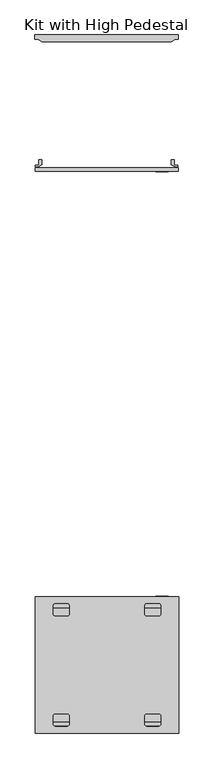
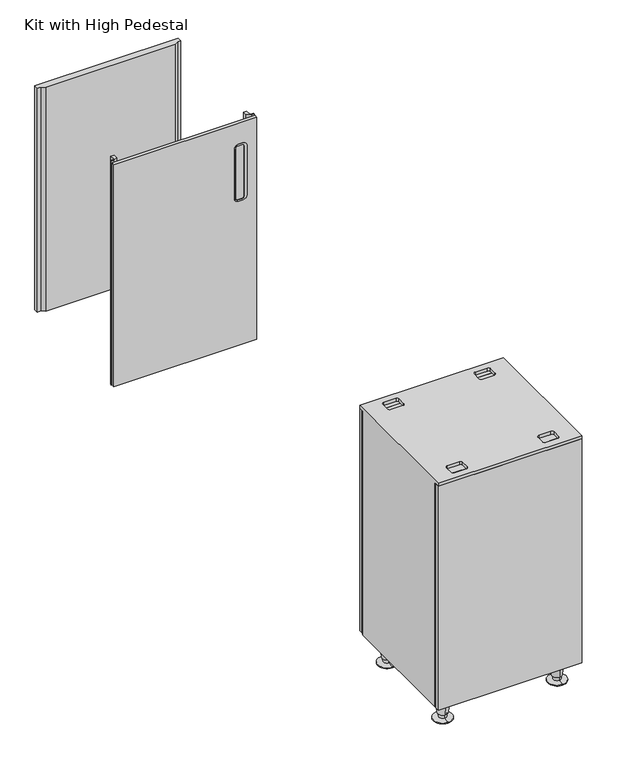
"""IFC4 building model written with IfcOpenShell, lengths in millimetres: furniture geometry, Steelcase - C Scape - Mid Storage Support - Mirrored Application : Kit with High Pedestal."""

from ifc_helpers import new_model, si_unit, point, frame, frame_2d, origin, place, context, project, spatial, polyline, circle_curve, trimmed, segment, composite_curve, outline, extrude, faceted_brep, source, transform, mapped, element, save
from ifc_brep_helpers import plane_surface, cylinder_surface, revolved_surface, advanced_brep


def kit_with_high_pedestal_83c3bd6a(model_context):
    return source(origin(), model_context, "Body", "SolidModel", [
        extrude(outline(polyline([(533.4, -1109.7844509), (77.47, -1109.7844509), (77.47, -1095.9415284), (87.6469322, -1095.9415284), (99.6948062, -1088.7024354), (511.174569, -1088.7024354), (523.2224429, -1095.9415284), (533.4, -1095.9415284), (533.4, -1109.7844509)])), frame((0.0, 0.0, 76.2), z_axis=(0.0, 0.0, 1.0), x_axis=(1.0, 0.0, 0.0)), (0.0, 0.0, 1.0), 751.84),
        extrude(outline(composite_curve([segment(polyline([(742.3150339, 460.8832248), (577.2149855, 460.8832248)]), True, "CONTINUOUS"), segment(trimmed(circle_curve(frame_2d((577.2149855, 473.5832248)), 12.7), [point((577.2149855, 460.8832248))], [point((564.5149855, 473.5832248))], False, "CARTESIAN"), True, "CONTINUOUS"), segment(polyline([(564.5149855, 473.5832248), (564.5149855, 488.1877597)]), True, "CONTINUOUS"), segment(trimmed(circle_curve(frame_2d((577.2149855, 488.1877597)), 12.7), [point((564.5149855, 488.1877597))], [point((577.2149855, 500.8877597))], False, "CARTESIAN"), True, "CONTINUOUS"), segment(polyline([(577.2149855, 500.8877597), (742.3150339, 500.8877597)]), True, "CONTINUOUS"), segment(trimmed(circle_curve(frame_2d((742.3150339, 488.1877597)), 12.7), [point((742.3150339, 500.8877597))], [point((755.0150339, 488.1877597))], False, "CARTESIAN"), True, "CONTINUOUS"), segment(polyline([(755.0150339, 488.1877597), (755.0150339, 473.5832248)]), True, "CONTINUOUS"), segment(trimmed(circle_curve(frame_2d((742.3150339, 473.5832248)), 12.7), [point((755.0150339, 473.5832248))], [point((742.3150339, 460.8832248))], False, "CARTESIAN"), True, "CONTINUOUS")], self_intersect=False), holes=[composite_curve([segment(polyline([(743.8390203, 491.1092868), (575.690999, 491.1092868)]), True, "CONTINUOUS"), segment(trimmed(circle_curve(frame_2d((575.690999, 484.7592868)), 6.35), [point((575.690999, 491.1092868))], [point((569.340999, 484.7592868))], True, "CARTESIAN"), True, "CONTINUOUS"), segment(polyline([(569.340999, 484.7592868), (569.340999, 472.059093)]), True, "CONTINUOUS"), segment(trimmed(circle_curve(frame_2d((575.690999, 472.059093)), 6.35), [point((569.340999, 472.059093))], [point((575.690999, 465.709093))], True, "CARTESIAN"), True, "CONTINUOUS"), segment(polyline([(575.690999, 465.709093), (743.8390203, 465.709093)]), True, "CONTINUOUS"), segment(trimmed(circle_curve(frame_2d((743.8390203, 472.059093)), 6.35), [point((743.8390203, 465.709093))], [point((750.1890203, 472.059093))], True, "CARTESIAN"), True, "CONTINUOUS"), segment(polyline([(750.1890203, 472.059093), (750.1890203, 484.7592868)]), True, "CONTINUOUS"), segment(trimmed(circle_curve(frame_2d((743.8390203, 484.7592868)), 6.35), [point((750.1890203, 484.7592868))], [point((743.8390203, 491.1092868))], True, "CARTESIAN"), True, "CONTINUOUS")], self_intersect=False)]), frame((0.0, -676.7144509, 0.0), z_axis=(0.0, 1.0, 0.0), x_axis=(0.0, 0.0, 1.0)), (0.0, 0.0, 1.0), 1.270126),
        extrude(outline(polyline([(78.5030765, -676.7144509), (532.6381473, -676.7144509), (532.6381473, -687.2555226), (78.5030765, -687.2555226), (78.5030765, -676.7144509)])), frame((0.0, 0.0, 79.374997), z_axis=(0.0, 0.0, 1.0), x_axis=(1.0, 0.0, 0.0)), (0.0, 0.0, 1.0), 745.4899885),
        extrude(outline(polyline([(89.6872775, -694.7484509), (78.5030765, -694.7484509), (78.5030765, -690.3033734), (87.6469322, -690.3033734), (99.6948062, -697.5424664), (99.6948062, -712.5284276), (89.6872775, -712.5284276), (89.6872775, -694.7484509)])), frame((0.0, 0.0, 76.2), z_axis=(0.0, 0.0, 1.0), x_axis=(1.0, 0.0, 0.0)), (0.0, 0.0, 1.0), 751.84),
        extrude(outline(polyline([(521.1826, -694.7484509), (521.1826, -712.5284276), (511.175, -712.5284276), (511.175, -697.5422074), (523.2224429, -690.3033734), (532.3666522, -690.3033734), (532.3666522, -694.7484509), (521.1826, -694.7484509)])), frame((0.0, 0.0, 76.2), z_axis=(0.0, 0.0, 1.0), x_axis=(1.0, 0.0, 0.0)), (0.0, 0.0, 1.0), 751.84),
        advanced_brep(
        [(487.045, -716.4234203, 0.0), (487.045, -746.0361403, 0.0), (487.045, -775.6488603, 0.0), (487.045, -716.4234203, 2.6912335), (487.045, -775.6488603, 2.6912335), (487.045, -734.0785526, 5.8043097), (487.045, -757.993728, 5.8043097), (487.045, -733.3843753, 19.05), (487.045, -758.6879052, 19.05), (487.045, -730.6582796, 19.05), (487.045, -761.4140009, 19.05), (487.045, -726.6619623, 76.2), (487.045, -765.4103183, 76.2), (487.045, -746.0361403, 76.2)],
        [
            (0, 1),
            (1, 2),
            (2, 0, circle_curve(frame((487.045, -746.0361403, 0.0), z_axis=(0.0, 0.0, -1.0), x_axis=(0.0, -1.0, 0.0)), 29.61272)),
            (0, 2, circle_curve(frame((487.045, -746.0361403, 0.0), z_axis=(0.0, 0.0, -1.0), x_axis=(0.0, -1.0, 0.0)), 29.61272)),
            (3, 0),
            (2, 4),
            (4, 3, circle_curve(frame((487.045, -746.0361403, 2.6912335), z_axis=(0.0, 0.0, -1.0), x_axis=(0.0, -1.0, 0.0)), 29.61272)),
            (3, 4, circle_curve(frame((487.045, -746.0361403, 2.6912335), z_axis=(0.0, 0.0, -1.0), x_axis=(0.0, -1.0, 0.0)), 29.61272)),
            (5, 3),
            (4, 6),
            (6, 5, circle_curve(frame((487.045, -746.0361403, 5.8043097), z_axis=(0.0, 0.0, -1.0), x_axis=(0.0, -1.0, 0.0)), 11.9575877)),
            (5, 6, circle_curve(frame((487.045, -746.0361403, 5.8043097), z_axis=(0.0, 0.0, -1.0), x_axis=(0.0, -1.0, 0.0)), 11.9575877)),
            (7, 5),
            (6, 8),
            (8, 7, circle_curve(frame((487.045, -746.0361403, 19.05), z_axis=(0.0, 0.0, -1.0), x_axis=(0.0, -1.0, 0.0)), 12.6517649)),
            (7, 8, circle_curve(frame((487.045, -746.0361403, 19.05), z_axis=(0.0, 0.0, -1.0), x_axis=(0.0, -1.0, 0.0)), 12.6517649)),
            (9, 7),
            (8, 10),
            (10, 9, circle_curve(frame((487.045, -746.0361403, 19.05), z_axis=(0.0, 0.0, -1.0), x_axis=(0.0, -1.0, 0.0)), 15.3778607)),
            (9, 10, circle_curve(frame((487.045, -746.0361403, 19.05), z_axis=(0.0, 0.0, -1.0), x_axis=(0.0, -1.0, 0.0)), 15.3778607)),
            (11, 9),
            (10, 12),
            (12, 11, circle_curve(frame((487.045, -746.0361403, 76.2), z_axis=(0.0, 0.0, -1.0), x_axis=(0.0, -1.0, 0.0)), 19.374178)),
            (11, 12, circle_curve(frame((487.045, -746.0361403, 76.2), z_axis=(0.0, 0.0, -1.0), x_axis=(0.0, -1.0, 0.0)), 19.374178)),
            (13, 11),
            (12, 13),
        ],
        [
            plane_surface(frame((487.045, -746.0361403, 0.0), z_axis=(0.0, 0.0, -1.0), x_axis=(0.0, -1.0, 0.0))),
            cylinder_surface(frame((487.045, -746.0361403, -7.7422201), z_axis=(0.0, 0.0, 1.0), x_axis=(0.0, -1.0, 0.0)), 29.61272),
            revolved_surface(polyline([(487.045, -775.6488603, 2.6912335), (487.045, -757.993728, 5.8043097)]), (487.045, -746.0361403, -7.7422201), (0.0, 0.0, 1.0)),
            revolved_surface(polyline([(487.045, -757.993728, 5.8043097), (487.045, -758.6879052, 19.05)]), (487.045, -746.0361403, -7.7422201), (0.0, 0.0, 1.0)),
            plane_surface(frame((487.045, -746.0361403, 19.05), z_axis=(0.0, 0.0, -1.0), x_axis=(0.0, -1.0, 0.0))),
            revolved_surface(polyline([(487.045, -761.4140009, 19.05), (487.045, -765.4103183, 76.2)]), (487.045, -746.0361403, -7.7422201), (0.0, 0.0, 1.0)),
            plane_surface(frame((487.045, -746.0361403, 76.2), z_axis=(0.0, 0.0, 1.0), x_axis=(0.0, -1.0, 0.0))),
        ],
        [
            (0, [[1, 2, 3]]),
            (0, [[-2, -1, 4]]),
            (1, [[5, -3, 6, 7]]),
            (1, [[-6, -4, -5, 8]]),
            (2, [[9, -7, 10, 11]]),
            (2, [[-10, -8, -9, 12]]),
            (3, [[13, -11, 14, 15]]),
            (3, [[-14, -12, -13, 16]]),
            (4, [[17, -15, 18, 19]]),
            (4, [[-18, -16, -17, 20]]),
            (5, [[21, -19, 22, 23]]),
            (5, [[-22, -20, -21, 24]]),
            (6, [[25, -23, 26]]),
            (6, [[-26, -24, -25]]),
        ],
    ),
        advanced_brep(
        [(487.045, -1071.902017, 76.2), (487.045, -1052.527839, 76.2), (487.045, -1033.153661, 76.2), (487.045, -1067.9056997, 19.05), (487.045, -1037.1499783, 19.05), (487.045, -1065.1796039, 19.05), (487.045, -1039.8760741, 19.05), (487.045, -1064.4854267, 5.8043097), (487.045, -1040.5702513, 5.8043097), (487.045, -1082.140559, 2.6912335), (487.045, -1022.915119, 2.6912335), (487.045, -1082.140559, 0.0), (487.045, -1022.915119, 0.0), (487.045, -1052.527839, 0.0)],
        [
            (0, 1),
            (1, 2),
            (2, 0, circle_curve(frame((487.045, -1052.527839, 76.2), z_axis=(0.0, 0.0, 1.0), x_axis=(0.0, 1.0, 0.0)), 19.374178)),
            (0, 2, circle_curve(frame((487.045, -1052.527839, 76.2), z_axis=(0.0, 0.0, 1.0), x_axis=(0.0, 1.0, 0.0)), 19.374178)),
            (3, 0),
            (2, 4),
            (4, 3, circle_curve(frame((487.045, -1052.527839, 19.05), z_axis=(0.0, 0.0, 1.0), x_axis=(0.0, 1.0, 0.0)), 15.3778607)),
            (3, 4, circle_curve(frame((487.045, -1052.527839, 19.05), z_axis=(0.0, 0.0, 1.0), x_axis=(0.0, 1.0, 0.0)), 15.3778607)),
            (5, 3),
            (4, 6),
            (6, 5, circle_curve(frame((487.045, -1052.527839, 19.05), z_axis=(0.0, 0.0, 1.0), x_axis=(0.0, 1.0, 0.0)), 12.6517649)),
            (5, 6, circle_curve(frame((487.045, -1052.527839, 19.05), z_axis=(0.0, 0.0, 1.0), x_axis=(0.0, 1.0, 0.0)), 12.6517649)),
            (7, 5),
            (6, 8),
            (8, 7, circle_curve(frame((487.045, -1052.527839, 5.8043097), z_axis=(0.0, 0.0, 1.0), x_axis=(0.0, 1.0, 0.0)), 11.9575877)),
            (7, 8, circle_curve(frame((487.045, -1052.527839, 5.8043097), z_axis=(0.0, 0.0, 1.0), x_axis=(0.0, 1.0, 0.0)), 11.9575877)),
            (9, 7),
            (8, 10),
            (10, 9, circle_curve(frame((487.045, -1052.527839, 2.6912335), z_axis=(0.0, 0.0, 1.0), x_axis=(0.0, 1.0, 0.0)), 29.61272)),
            (9, 10, circle_curve(frame((487.045, -1052.527839, 2.6912335), z_axis=(0.0, 0.0, 1.0), x_axis=(0.0, 1.0, 0.0)), 29.61272)),
            (11, 9),
            (10, 12),
            (12, 11, circle_curve(frame((487.045, -1052.527839, 0.0), z_axis=(0.0, 0.0, 1.0), x_axis=(0.0, 1.0, 0.0)), 29.61272)),
            (11, 12, circle_curve(frame((487.045, -1052.527839, 0.0), z_axis=(0.0, 0.0, 1.0), x_axis=(0.0, 1.0, 0.0)), 29.61272)),
            (13, 11),
            (12, 13),
        ],
        [
            plane_surface(frame((487.045, -1052.527839, 76.2), z_axis=(0.0, 0.0, 1.0), x_axis=(0.0, 1.0, 0.0))),
            revolved_surface(polyline([(487.045, -1033.153661, 76.2), (487.045, -1037.1499783, 19.05)]), (487.045, -1052.527839, -7.7422201), (0.0, 0.0, -1.0)),
            plane_surface(frame((487.045, -1052.527839, 19.05), z_axis=(0.0, 0.0, -1.0), x_axis=(0.0, 1.0, 0.0))),
            revolved_surface(polyline([(487.045, -1039.8760741, 19.05), (487.045, -1040.5702513, 5.8043097)]), (487.045, -1052.527839, -7.7422201), (0.0, 0.0, -1.0)),
            revolved_surface(polyline([(487.045, -1040.5702513, 5.8043097), (487.045, -1022.915119, 2.6912335)]), (487.045, -1052.527839, -7.7422201), (0.0, 0.0, -1.0)),
            cylinder_surface(frame((487.045, -1052.527839, -7.7422201), z_axis=(0.0, 0.0, -1.0), x_axis=(0.0, 1.0, 0.0)), 29.61272),
            plane_surface(frame((487.045, -1052.527839, 0.0), z_axis=(0.0, 0.0, -1.0), x_axis=(0.0, 1.0, 0.0))),
        ],
        [
            (0, [[1, 2, 3]]),
            (0, [[-2, -1, 4]]),
            (1, [[5, -3, 6, 7]]),
            (1, [[-6, -4, -5, 8]]),
            (2, [[9, -7, 10, 11]]),
            (2, [[-10, -8, -9, 12]]),
            (3, [[13, -11, 14, 15]]),
            (3, [[-14, -12, -13, 16]]),
            (4, [[17, -15, 18, 19]]),
            (4, [[-18, -16, -17, 20]]),
            (5, [[21, -19, 22, 23]]),
            (5, [[-22, -20, -21, 24]]),
            (6, [[25, -23, 26]]),
            (6, [[-26, -24, -25]]),
        ],
    ),
        advanced_brep(
        [(123.8248062, -726.6619623, 76.2), (123.8248062, -746.0361403, 76.2), (123.8248062, -765.4103183, 76.2), (123.8248062, -730.6582796, 19.05), (123.8248062, -761.4140009, 19.05), (123.8248062, -733.3843753, 19.05), (123.8248062, -758.6879052, 19.05), (123.8248062, -734.0785526, 5.8043097), (123.8248062, -757.993728, 5.8043097), (123.8248062, -716.4234203, 2.6912335), (123.8248062, -775.6488603, 2.6912335), (123.8248062, -716.4234203, 0.0), (123.8248062, -775.6488603, 0.0), (123.8248062, -746.0361403, 0.0)],
        [
            (0, 1),
            (1, 2),
            (2, 0, circle_curve(frame((123.8248062, -746.0361403, 76.2), z_axis=(0.0, 0.0, 1.0), x_axis=(0.0, -1.0, 0.0)), 19.374178)),
            (0, 2, circle_curve(frame((123.8248062, -746.0361403, 76.2), z_axis=(0.0, 0.0, 1.0), x_axis=(0.0, -1.0, 0.0)), 19.374178)),
            (3, 0),
            (2, 4),
            (4, 3, circle_curve(frame((123.8248062, -746.0361403, 19.05), z_axis=(0.0, 0.0, 1.0), x_axis=(0.0, -1.0, 0.0)), 15.3778607)),
            (3, 4, circle_curve(frame((123.8248062, -746.0361403, 19.05), z_axis=(0.0, 0.0, 1.0), x_axis=(0.0, -1.0, 0.0)), 15.3778607)),
            (5, 3),
            (4, 6),
            (6, 5, circle_curve(frame((123.8248062, -746.0361403, 19.05), z_axis=(0.0, 0.0, 1.0), x_axis=(0.0, -1.0, 0.0)), 12.6517649)),
            (5, 6, circle_curve(frame((123.8248062, -746.0361403, 19.05), z_axis=(0.0, 0.0, 1.0), x_axis=(0.0, -1.0, 0.0)), 12.6517649)),
            (7, 5),
            (6, 8),
            (8, 7, circle_curve(frame((123.8248062, -746.0361403, 5.8043097), z_axis=(0.0, 0.0, 1.0), x_axis=(0.0, -1.0, 0.0)), 11.9575877)),
            (7, 8, circle_curve(frame((123.8248062, -746.0361403, 5.8043097), z_axis=(0.0, 0.0, 1.0), x_axis=(0.0, -1.0, 0.0)), 11.9575877)),
            (9, 7),
            (8, 10),
            (10, 9, circle_curve(frame((123.8248062, -746.0361403, 2.6912335), z_axis=(0.0, 0.0, 1.0), x_axis=(0.0, -1.0, 0.0)), 29.61272)),
            (9, 10, circle_curve(frame((123.8248062, -746.0361403, 2.6912335), z_axis=(0.0, 0.0, 1.0), x_axis=(0.0, -1.0, 0.0)), 29.61272)),
            (11, 9),
            (10, 12),
            (12, 11, circle_curve(frame((123.8248062, -746.0361403, 0.0), z_axis=(0.0, 0.0, 1.0), x_axis=(0.0, -1.0, 0.0)), 29.61272)),
            (11, 12, circle_curve(frame((123.8248062, -746.0361403, 0.0), z_axis=(0.0, 0.0, 1.0), x_axis=(0.0, -1.0, 0.0)), 29.61272)),
            (13, 11),
            (12, 13),
        ],
        [
            plane_surface(frame((123.8248062, -746.0361403, 76.2), z_axis=(0.0, 0.0, 1.0), x_axis=(0.0, -1.0, 0.0))),
            revolved_surface(polyline([(123.8248062, -765.4103183, 76.2), (123.8248062, -761.4140009, 19.05)]), (123.8248062, -746.0361403, -7.7422201), (0.0, 0.0, -1.0)),
            plane_surface(frame((123.8248062, -746.0361403, 19.05), z_axis=(0.0, 0.0, -1.0), x_axis=(0.0, -1.0, 0.0))),
            revolved_surface(polyline([(123.8248062, -758.6879052, 19.05), (123.8248062, -757.993728, 5.8043097)]), (123.8248062, -746.0361403, -7.7422201), (0.0, 0.0, -1.0)),
            revolved_surface(polyline([(123.8248062, -757.993728, 5.8043097), (123.8248062, -775.6488603, 2.6912335)]), (123.8248062, -746.0361403, -7.7422201), (0.0, 0.0, -1.0)),
            cylinder_surface(frame((123.8248062, -746.0361403, -7.7422201), z_axis=(0.0, 0.0, -1.0), x_axis=(0.0, -1.0, 0.0)), 29.61272),
            plane_surface(frame((123.8248062, -746.0361403, 0.0), z_axis=(0.0, 0.0, -1.0), x_axis=(0.0, -1.0, 0.0))),
        ],
        [
            (0, [[1, 2, 3]]),
            (0, [[-2, -1, 4]]),
            (1, [[5, -3, 6, 7]]),
            (1, [[-6, -4, -5, 8]]),
            (2, [[9, -7, 10, 11]]),
            (2, [[-10, -8, -9, 12]]),
            (3, [[13, -11, 14, 15]]),
            (3, [[-14, -12, -13, 16]]),
            (4, [[17, -15, 18, 19]]),
            (4, [[-18, -16, -17, 20]]),
            (5, [[21, -19, 22, 23]]),
            (5, [[-22, -20, -21, 24]]),
            (6, [[25, -23, 26]]),
            (6, [[-26, -24, -25]]),
        ],
    ),
        advanced_brep(
        [(123.8248062, -1082.140559, 0.0), (123.8248062, -1052.527839, 0.0), (123.8248062, -1022.915119, 0.0), (123.8248062, -1082.140559, 2.6912335), (123.8248062, -1022.915119, 2.6912335), (123.8248062, -1064.4854267, 5.8043097), (123.8248062, -1040.5702513, 5.8043097), (123.8248062, -1065.1796039, 19.05), (123.8248062, -1039.8760741, 19.05), (123.8248062, -1067.9056997, 19.05), (123.8248062, -1037.1499783, 19.05), (123.8248062, -1071.902017, 76.2), (123.8248062, -1033.153661, 76.2), (123.8248062, -1052.527839, 76.2)],
        [
            (0, 1),
            (1, 2),
            (2, 0, circle_curve(frame((123.8248062, -1052.527839, 0.0), z_axis=(0.0, 0.0, -1.0), x_axis=(0.0, 1.0, 0.0)), 29.61272)),
            (0, 2, circle_curve(frame((123.8248062, -1052.527839, 0.0), z_axis=(0.0, 0.0, -1.0), x_axis=(0.0, 1.0, 0.0)), 29.61272)),
            (3, 0),
            (2, 4),
            (4, 3, circle_curve(frame((123.8248062, -1052.527839, 2.6912335), z_axis=(0.0, 0.0, -1.0), x_axis=(0.0, 1.0, 0.0)), 29.61272)),
            (3, 4, circle_curve(frame((123.8248062, -1052.527839, 2.6912335), z_axis=(0.0, 0.0, -1.0), x_axis=(0.0, 1.0, 0.0)), 29.61272)),
            (5, 3),
            (4, 6),
            (6, 5, circle_curve(frame((123.8248062, -1052.527839, 5.8043097), z_axis=(0.0, 0.0, -1.0), x_axis=(0.0, 1.0, 0.0)), 11.9575877)),
            (5, 6, circle_curve(frame((123.8248062, -1052.527839, 5.8043097), z_axis=(0.0, 0.0, -1.0), x_axis=(0.0, 1.0, 0.0)), 11.9575877)),
            (7, 5),
            (6, 8),
            (8, 7, circle_curve(frame((123.8248062, -1052.527839, 19.05), z_axis=(0.0, 0.0, -1.0), x_axis=(0.0, 1.0, 0.0)), 12.6517649)),
            (7, 8, circle_curve(frame((123.8248062, -1052.527839, 19.05), z_axis=(0.0, 0.0, -1.0), x_axis=(0.0, 1.0, 0.0)), 12.6517649)),
            (9, 7),
            (8, 10),
            (10, 9, circle_curve(frame((123.8248062, -1052.527839, 19.05), z_axis=(0.0, 0.0, -1.0), x_axis=(0.0, 1.0, 0.0)), 15.3778607)),
            (9, 10, circle_curve(frame((123.8248062, -1052.527839, 19.05), z_axis=(0.0, 0.0, -1.0), x_axis=(0.0, 1.0, 0.0)), 15.3778607)),
            (11, 9),
            (10, 12),
            (12, 11, circle_curve(frame((123.8248062, -1052.527839, 76.2), z_axis=(0.0, 0.0, -1.0), x_axis=(0.0, 1.0, 0.0)), 19.374178)),
            (11, 12, circle_curve(frame((123.8248062, -1052.527839, 76.2), z_axis=(0.0, 0.0, -1.0), x_axis=(0.0, 1.0, 0.0)), 19.374178)),
            (13, 11),
            (12, 13),
        ],
        [
            plane_surface(frame((123.8248062, -1052.527839, 0.0), z_axis=(0.0, 0.0, -1.0), x_axis=(0.0, 1.0, 0.0))),
            cylinder_surface(frame((123.8248062, -1052.527839, -7.7422201), z_axis=(0.0, 0.0, 1.0), x_axis=(0.0, 1.0, 0.0)), 29.61272),
            revolved_surface(polyline([(123.8248062, -1022.915119, 2.6912335), (123.8248062, -1040.5702513, 5.8043097)]), (123.8248062, -1052.527839, -7.7422201), (0.0, 0.0, 1.0)),
            revolved_surface(polyline([(123.8248062, -1040.5702513, 5.8043097), (123.8248062, -1039.8760741, 19.05)]), (123.8248062, -1052.527839, -7.7422201), (0.0, 0.0, 1.0)),
            plane_surface(frame((123.8248062, -1052.527839, 19.05), z_axis=(0.0, 0.0, -1.0), x_axis=(0.0, 1.0, 0.0))),
            revolved_surface(polyline([(123.8248062, -1037.1499783, 19.05), (123.8248062, -1033.153661, 76.2)]), (123.8248062, -1052.527839, -7.7422201), (0.0, 0.0, 1.0)),
            plane_surface(frame((123.8248062, -1052.527839, 76.2), z_axis=(0.0, 0.0, 1.0), x_axis=(0.0, 1.0, 0.0))),
        ],
        [
            (0, [[1, 2, 3]]),
            (0, [[-2, -1, 4]]),
            (1, [[5, -3, 6, 7]]),
            (1, [[-6, -4, -5, 8]]),
            (2, [[9, -7, 10, 11]]),
            (2, [[-10, -8, -9, 12]]),
            (3, [[13, -11, 14, 15]]),
            (3, [[-14, -12, -13, 16]]),
            (4, [[17, -15, 18, 19]]),
            (4, [[-18, -16, -17, 20]]),
            (5, [[21, -19, 22, 23]]),
            (5, [[-22, -20, -21, 24]]),
            (6, [[25, -23, 26]]),
            (6, [[-26, -24, -25]]),
        ],
    ),
        advanced_brep(
        [(77.47, -676.7144509, 838.2), (77.47, -676.7144509, 828.04), (77.47, -694.7484509, 828.04), (77.47, -694.7484509, 76.2), (77.47, -1091.4964509, 76.2), (77.47, -1091.4964509, 828.04), (77.47, -1109.7844509, 828.04), (77.47, -1109.7844509, 838.2), (533.4, -676.7144509, 838.2), (533.4, -1109.7844509, 838.2), (533.4, -1109.7844509, 828.04), (533.4, -1091.4964509, 828.04), (533.4, -1091.4964509, 76.2), (533.4, -694.7484509, 76.2), (533.4, -694.7484509, 828.04), (533.4, -676.7144509, 828.04), (99.6948062, -712.5284276, 92.7100024), (99.6948062, -1073.7164741, 92.7100024), (511.1751938, -1073.7164741, 92.7100024), (511.1751938, -712.5284276, 92.7100024), (521.1827225, -1073.7164741, 828.04), (476.2495349, -1073.7164741, 828.04), (425.4499225, -1073.7164741, 828.04), (185.4198062, -1073.7164741, 828.04), (134.6201938, -1073.7164741, 828.04), (89.6872775, -1073.7164741, 828.04), (89.6872775, -1073.7164741, 76.2), (521.1827225, -1073.7164741, 76.2), (99.6948062, -1073.7164741, 441.604404), (511.1751938, -1073.7164741, 441.604404), (99.6948062, -1073.7164741, 457.2), (99.6948062, -1073.7164741, 811.5299709), (511.1751938, -1073.7164741, 811.5299709), (511.1751938, -1073.7164741, 457.2), (89.6872775, -1091.4964509, 76.2), (89.6872775, -694.7484509, 76.2), (89.6872775, -712.5284276, 76.2), (521.1827225, -712.5284276, 76.2), (521.1827225, -694.7484509, 76.2), (521.1827225, -1091.4964509, 76.2), (425.4499225, -712.5284276, 828.04), (476.2495349, -712.5284276, 828.04), (521.1827225, -712.5284276, 828.04), (89.6872775, -712.5284276, 828.04), (134.6201938, -712.5284276, 828.04), (185.4198062, -712.5284276, 828.04), (511.1751938, -712.5284276, 441.604404), (99.6948062, -712.5284276, 441.604404), (511.1751938, -712.5284276, 457.2), (511.1751938, -712.5284276, 811.5299709), (99.6948062, -712.5284276, 811.5299709), (99.6948062, -712.5284276, 457.2), (179.0698062, -698.8131795, 838.2), (185.4198062, -705.1631795, 838.2), (185.4198062, -730.5624044, 838.2), (179.0698062, -736.9124044, 838.2), (140.9701938, -736.9124044, 838.2), (134.6201938, -730.5624044, 838.2), (134.6201938, -705.1631795, 838.2), (140.9701938, -698.8131795, 838.2), (431.799535, -698.8124044, 838.2), (469.8995349, -698.8124044, 838.2), (476.2495349, -705.1631795, 838.2), (476.2495349, -730.5624044, 838.2), (469.8995349, -736.9124044, 838.2), (431.7999225, -736.9124044, 838.2), (425.4499225, -730.5624044, 838.2), (425.4499225, -705.1631795, 838.2), (185.4198062, -1055.6829392, 838.2), (185.4198062, -1081.0821641, 838.2), (179.0698062, -1087.4321641, 838.2), (140.9701938, -1087.4321641, 838.2), (134.6201938, -1081.0821641, 838.2), (134.6201938, -1055.6829392, 838.2), (140.9701938, -1049.3329392, 838.2), (179.0698062, -1049.3321641, 838.2), (469.8995349, -1049.3329392, 838.2), (476.2495349, -1055.6829392, 838.2), (476.2495349, -1081.0821641, 838.2), (469.8995349, -1087.4321641, 838.2), (431.7999225, -1087.4321641, 838.2), (425.4499225, -1081.0821641, 838.2), (425.4499225, -1055.6829392, 838.2), (431.799535, -1049.3329392, 838.2), (89.6872775, -1091.4964509, 828.04), (134.6201938, -1081.0821641, 828.04), (140.9701938, -1087.4321641, 828.04), (179.0698062, -1087.4321641, 828.04), (185.4198062, -1081.0821641, 828.04), (425.4499225, -1081.0821641, 828.04), (431.7999225, -1087.4321641, 828.04), (469.8995349, -1087.4321641, 828.04), (476.2495349, -1081.0821641, 828.04), (521.1827225, -1091.4964509, 828.04), (521.1827225, -694.7484509, 828.04), (476.2495349, -705.1631795, 828.04), (469.8995349, -698.8131795, 828.04), (431.799535, -698.8124044, 828.04), (425.4499225, -705.1631795, 828.04), (185.4198062, -705.1631795, 828.04), (179.0698062, -698.8131795, 828.04), (140.9701938, -698.8124044, 828.04), (134.6201938, -705.1631795, 828.04), (89.6872775, -694.7484509, 828.04), (185.4198062, -730.5624044, 828.04), (134.6201938, -730.5624044, 828.04), (140.9701938, -736.9124044, 828.04), (179.0698062, -736.9124044, 828.04), (476.2495349, -730.5624044, 828.04), (425.4499225, -730.5624044, 828.04), (431.7999225, -736.9124044, 828.04), (469.8995349, -736.9124044, 828.04), (179.0701938, -1049.3321641, 828.04), (140.9701938, -1049.3321641, 828.04), (134.6201938, -1055.6829392, 828.04), (185.4198062, -1055.6829392, 828.04), (431.7999225, -1049.3329392, 828.04), (425.4499225, -1055.6829392, 828.04), (476.2495349, -1055.6829392, 828.04), (469.8995349, -1049.3329392, 828.04)],
        [
            (0, 1),
            (1, 2),
            (2, 3),
            (3, 4),
            (4, 5),
            (5, 6),
            (6, 7),
            (7, 0),
            (8, 9),
            (9, 10),
            (10, 11),
            (11, 12),
            (12, 13),
            (13, 14),
            (14, 15),
            (15, 8),
            (16, 17),
            (17, 18),
            (18, 19),
            (19, 16),
            (20, 21),
            (21, 22),
            (22, 23),
            (23, 24),
            (24, 25),
            (25, 26),
            (26, 27),
            (27, 20),
            (17, 28),
            (28, 29),
            (29, 18),
            (30, 31),
            (31, 32),
            (32, 33),
            (33, 30),
            (34, 4),
            (3, 35),
            (35, 36),
            (36, 37),
            (37, 38),
            (38, 13),
            (12, 39),
            (39, 27),
            (26, 34),
            (40, 41),
            (41, 42),
            (42, 37),
            (36, 43),
            (43, 44),
            (44, 45),
            (45, 40),
            (19, 46),
            (46, 47),
            (47, 16),
            (48, 49),
            (49, 50),
            (50, 51),
            (51, 48),
            (51, 30),
            (33, 48),
            (28, 47),
            (46, 29),
            (7, 9),
            (8, 0),
            (52, 53, circle_curve(frame((179.0698062, -705.1631795, 838.2), z_axis=(0.0, 0.0, -1.0), x_axis=(0.0, 1.0, 0.0)), 6.35)),
            (53, 54),
            (54, 55, circle_curve(frame((179.0698062, -730.5624044, 838.2), z_axis=(0.0, 0.0, -1.0), x_axis=(0.0, 1.0, 0.0)), 6.35)),
            (55, 56),
            (56, 57, circle_curve(frame((140.9701938, -730.5624044, 838.2), z_axis=(0.0, 0.0, -1.0), x_axis=(0.0, 1.0, 0.0)), 6.35)),
            (57, 58),
            (58, 59, circle_curve(frame((140.9701938, -705.1631795, 838.2), z_axis=(0.0, 0.0, -1.0), x_axis=(0.0, 1.0, 0.0)), 6.35)),
            (59, 52),
            (60, 61),
            (61, 62, circle_curve(frame((469.8995349, -705.1631795, 838.2), z_axis=(0.0, 0.0, -1.0), x_axis=(0.0, 1.0, 0.0)), 6.35)),
            (62, 63),
            (63, 64, circle_curve(frame((469.8995349, -730.5624044, 838.2), z_axis=(0.0, 0.0, -1.0), x_axis=(0.0, 1.0, 0.0)), 6.35)),
            (64, 65),
            (65, 66, circle_curve(frame((431.7999225, -730.5624044, 838.2), z_axis=(0.0, 0.0, -1.0), x_axis=(0.0, 1.0, 0.0)), 6.35)),
            (66, 67),
            (67, 60, circle_curve(frame((431.7999225, -705.1631795, 838.2), z_axis=(0.0, 0.0, -1.0), x_axis=(0.0, 1.0, 0.0)), 6.35)),
            (68, 69),
            (69, 70, circle_curve(frame((179.0698062, -1081.0821641, 838.2), z_axis=(0.0, 0.0, -1.0), x_axis=(0.0, -1.0, 0.0)), 6.35)),
            (70, 71),
            (71, 72, circle_curve(frame((140.9701938, -1081.0821641, 838.2), z_axis=(0.0, 0.0, -1.0), x_axis=(0.0, -1.0, 0.0)), 6.35)),
            (72, 73),
            (73, 74, circle_curve(frame((140.9701938, -1055.6829392, 838.2), z_axis=(0.0, 0.0, -1.0), x_axis=(0.0, -1.0, 0.0)), 6.35)),
            (74, 75),
            (75, 68, circle_curve(frame((179.0698062, -1055.6829392, 838.2), z_axis=(0.0, 0.0, -1.0), x_axis=(0.0, -1.0, 0.0)), 6.35)),
            (76, 77, circle_curve(frame((469.8995349, -1055.6829392, 838.2), z_axis=(0.0, 0.0, -1.0), x_axis=(0.0, -1.0, 0.0)), 6.35)),
            (77, 78),
            (78, 79, circle_curve(frame((469.8995349, -1081.0821641, 838.2), z_axis=(0.0, 0.0, -1.0), x_axis=(0.0, -1.0, 0.0)), 6.35)),
            (79, 80),
            (80, 81, circle_curve(frame((431.7999225, -1081.0821641, 838.2), z_axis=(0.0, 0.0, -1.0), x_axis=(0.0, -1.0, 0.0)), 6.35)),
            (81, 82),
            (82, 83, circle_curve(frame((431.7999225, -1055.6829392, 838.2), z_axis=(0.0, 0.0, -1.0), x_axis=(0.0, -1.0, 0.0)), 6.35)),
            (83, 76),
            (6, 10),
            (5, 84),
            (84, 25),
            (24, 85),
            (85, 86, circle_curve(frame((140.9701938, -1081.0821641, 828.04), z_axis=(0.0, 0.0, 1.0), x_axis=(0.0, -1.0, 0.0)), 6.35)),
            (86, 87),
            (87, 88, circle_curve(frame((179.0698062, -1081.0821641, 828.04), z_axis=(0.0, 0.0, 1.0), x_axis=(0.0, -1.0, 0.0)), 6.35)),
            (88, 23),
            (22, 89),
            (89, 90, circle_curve(frame((431.7999225, -1081.0821641, 828.04), z_axis=(0.0, 0.0, 1.0), x_axis=(0.0, -1.0, 0.0)), 6.35)),
            (90, 91),
            (91, 92, circle_curve(frame((469.8995349, -1081.0821641, 828.04), z_axis=(0.0, 0.0, 1.0), x_axis=(0.0, -1.0, 0.0)), 6.35)),
            (92, 21),
            (20, 93),
            (93, 11),
            (31, 50),
            (49, 32),
            (14, 94),
            (94, 42),
            (41, 95),
            (95, 96, circle_curve(frame((469.8995349, -705.1631795, 828.04), z_axis=(0.0, 0.0, 1.0), x_axis=(0.0, 1.0, 0.0)), 6.35)),
            (96, 97),
            (97, 98, circle_curve(frame((431.7999225, -705.1631795, 828.04), z_axis=(0.0, 0.0, 1.0), x_axis=(0.0, 1.0, 0.0)), 6.35)),
            (98, 40),
            (45, 99),
            (99, 100, circle_curve(frame((179.0698062, -705.1631795, 828.04), z_axis=(0.0, 0.0, 1.0), x_axis=(0.0, 1.0, 0.0)), 6.35)),
            (100, 101),
            (101, 102, circle_curve(frame((140.9701938, -705.1631795, 828.04), z_axis=(0.0, 0.0, 1.0), x_axis=(0.0, 1.0, 0.0)), 6.35)),
            (102, 44),
            (43, 103),
            (103, 2),
            (1, 15),
            (104, 45),
            (44, 105),
            (105, 106, circle_curve(frame((140.9701938, -730.5624044, 828.04), z_axis=(0.0, 0.0, 1.0), x_axis=(0.0, 1.0, 0.0)), 6.35)),
            (106, 107),
            (107, 104, circle_curve(frame((179.0698062, -730.5624044, 828.04), z_axis=(0.0, 0.0, 1.0), x_axis=(0.0, 1.0, 0.0)), 6.35)),
            (108, 41),
            (40, 109),
            (109, 110, circle_curve(frame((431.7999225, -730.5624044, 828.04), z_axis=(0.0, 0.0, 1.0), x_axis=(0.0, 1.0, 0.0)), 6.35)),
            (110, 111),
            (111, 108, circle_curve(frame((469.8995349, -730.5624044, 828.04), z_axis=(0.0, 0.0, 1.0), x_axis=(0.0, 1.0, 0.0)), 6.35)),
            (100, 52),
            (59, 101),
            (58, 102),
            (57, 105),
            (56, 106),
            (55, 107),
            (54, 104),
            (53, 99),
            (97, 60),
            (67, 98),
            (66, 109),
            (65, 110),
            (64, 111),
            (63, 108),
            (62, 95),
            (61, 96),
            (34, 84),
            (103, 35),
            (39, 93),
            (94, 38),
            (112, 113),
            (113, 114, circle_curve(frame((140.9701938, -1055.6829392, 828.04), z_axis=(0.0, 0.0, 1.0), x_axis=(0.0, -1.0, 0.0)), 6.35)),
            (114, 24),
            (23, 115),
            (115, 112, circle_curve(frame((179.0698062, -1055.6829392, 828.04), z_axis=(0.0, 0.0, 1.0), x_axis=(0.0, -1.0, 0.0)), 6.35)),
            (116, 117, circle_curve(frame((431.7999225, -1055.6829392, 828.04), z_axis=(0.0, 0.0, 1.0), x_axis=(0.0, -1.0, 0.0)), 6.35)),
            (117, 22),
            (21, 118),
            (118, 119, circle_curve(frame((469.8995349, -1055.6829392, 828.04), z_axis=(0.0, 0.0, 1.0), x_axis=(0.0, -1.0, 0.0)), 6.35)),
            (119, 116),
            (112, 75),
            (74, 113),
            (73, 114),
            (72, 85),
            (71, 86),
            (70, 87),
            (69, 88),
            (68, 115),
            (116, 83),
            (82, 117),
            (81, 89),
            (80, 90),
            (79, 91),
            (78, 92),
            (77, 118),
            (76, 119),
        ],
        [
            plane_surface(frame((77.47, -1073.7164741, 92.7100024), z_axis=(-1.0, 0.0, 0.0), x_axis=(0.0, -1.0, 0.0))),
            plane_surface(frame((533.4, -1073.7164741, 92.7100024), z_axis=(1.0, 0.0, 0.0), x_axis=(0.0, 1.0, 0.0))),
            plane_surface(frame((77.47, -712.5284276, 92.7100024), z_axis=(0.0, 0.0, 1.0), x_axis=(1.0, 0.0, 0.0))),
            plane_surface(frame((77.47, -1073.7164741, 92.7100024), z_axis=(0.0, -1.0, 0.0), x_axis=(1.0, 0.0, 0.0))),
            plane_surface(frame((77.47, -1073.7164741, 76.2), z_axis=(0.0, 0.0, -1.0), x_axis=(1.0, 0.0, 0.0))),
            plane_surface(frame((77.47, -712.5284276, 76.2), z_axis=(0.0, 1.0, 0.0), x_axis=(1.0, 0.0, 0.0))),
            plane_surface(frame((77.47, -712.5284276, 457.2), z_axis=(0.0, 0.0, 1.0), x_axis=(1.0, 0.0, 0.0))),
            plane_surface(frame((77.47, -1073.7164741, 441.604404), z_axis=(0.0, 0.0, -1.0), x_axis=(1.0, 0.0, 0.0))),
            plane_surface(frame((77.47, -676.7144509, 838.2), z_axis=(0.0, 0.0, 1.0), x_axis=(1.0, 0.0, 0.0))),
            plane_surface(frame((77.47, -1109.7844509, 838.2), z_axis=(0.0, -1.0, 0.0), x_axis=(1.0, 0.0, 0.0))),
            plane_surface(frame((77.47, -1109.7844509, 828.04), z_axis=(0.0, 0.0, -1.0), x_axis=(1.0, 0.0, 0.0))),
            plane_surface(frame((77.47, -1073.7164741, 811.5299709), z_axis=(0.0, 0.0, -1.0), x_axis=(1.0, 0.0, 0.0))),
            plane_surface(frame((77.47, -712.5284276, 828.04), z_axis=(0.0, 0.0, -1.0), x_axis=(1.0, 0.0, 0.0))),
            plane_surface(frame((77.47, -676.7144509, 828.04), z_axis=(0.0, 1.0, 0.0), x_axis=(1.0, 0.0, 0.0))),
            plane_surface(frame((140.9701938, -698.8124044, 828.04), z_axis=(0.0, 0.0, 1.0), x_axis=(-1.0, 0.0, 0.0))),
            plane_surface(frame((179.0701938, -698.8124044, 828.04), z_axis=(0.0, -1.0, 0.0), x_axis=(0.0, 0.0, 1.0))),
            revolved_surface(polyline([(140.9701938, -698.8131794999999, 828.04), (140.9701938, -698.8131794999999, 838.2)]), (140.9701938, -705.1631795, 838.2), (0.0, 0.0, -1.0)),
            plane_surface(frame((134.6201938, -705.1631795, 828.04), z_axis=(1.0, 0.0, 0.0), x_axis=(0.0, 0.0, 1.0))),
            revolved_surface(polyline([(140.9701938, -724.2124044, 828.04), (140.9701938, -724.2124044, 838.2)]), (140.9701938, -730.5624044, 838.2), (0.0, 0.0, -1.0)),
            plane_surface(frame((140.9701938, -736.9124044, 828.04), z_axis=(0.0, 1.0, 0.0), x_axis=(0.0, 0.0, 1.0))),
            revolved_surface(polyline([(179.0698062, -724.2124044, 828.04), (179.0698062, -724.2124044, 838.2)]), (179.0698062, -730.5624044, 838.2), (0.0, 0.0, -1.0)),
            plane_surface(frame((185.4198062, -730.5624044, 828.04), z_axis=(-1.0, 0.0, 0.0), x_axis=(0.0, 0.0, 1.0))),
            revolved_surface(polyline([(179.0698062, -698.8131794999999, 828.04), (179.0698062, -698.8131794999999, 838.2)]), (179.0698062, -705.1631795, 838.2), (0.0, 0.0, -1.0)),
            revolved_surface(polyline([(431.7999225, -698.8131794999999, 828.04), (431.7999225, -698.8131794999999, 838.2)]), (431.7999225, -705.1631795, 0.0), (0.0, 0.0, -1.0)),
            plane_surface(frame((425.4499225, -705.1631795, 828.04), z_axis=(1.0, 0.0, 0.0), x_axis=(0.0, 0.0, 1.0))),
            revolved_surface(polyline([(431.7999225, -724.2124044, 828.04), (431.7999225, -724.2124044, 838.2)]), (431.7999225, -730.5624044, 0.0), (0.0, 0.0, -1.0)),
            plane_surface(frame((431.7999225, -736.9124044, 828.04), z_axis=(0.0, 1.0, 0.0), x_axis=(0.0, 0.0, 1.0))),
            revolved_surface(polyline([(469.8995349, -724.2124044, 828.04), (469.8995349, -724.2124044, 838.2)]), (469.8995349, -730.5624044, 0.0), (0.0, 0.0, -1.0)),
            plane_surface(frame((476.2495349, -730.5624044, 828.04), z_axis=(-1.0, 0.0, 0.0), x_axis=(0.0, 0.0, 1.0))),
            revolved_surface(polyline([(469.8995349, -698.8131794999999, 828.04), (469.8995349, -698.8131794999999, 838.2)]), (469.8995349, -705.1631795, 0.0), (0.0, 0.0, -1.0)),
            plane_surface(frame((469.8995349, -698.8124044, 828.04), z_axis=(0.0, -1.0, 0.0), x_axis=(0.0, 0.0, 1.0))),
            plane_surface(frame((89.6872775, -1091.4964509, 828.04), z_axis=(0.0, -1.0, 0.0), x_axis=(0.0, 0.0, -1.0))),
            plane_surface(frame((77.47, -694.7484509, 828.04), z_axis=(0.0, 1.0, 0.0), x_axis=(0.0, 0.0, -1.0))),
            plane_surface(frame((89.6872775, -694.7484509, 828.04), z_axis=(1.0, 0.0, 0.0), x_axis=(0.0, 0.0, -1.0))),
            plane_surface(frame((99.6948062, -712.5284276, 828.04), z_axis=(1.0, 0.0, 0.0), x_axis=(0.0, 0.0, -1.0))),
            plane_surface(frame((89.6872775, -1073.7164741, 828.04), z_axis=(1.0, 0.0, 0.0), x_axis=(0.0, 0.0, -1.0))),
            plane_surface(frame((521.1827225, -1091.4964509, 828.04), z_axis=(-1.0, 0.0, 0.0), x_axis=(0.0, 0.0, -1.0))),
            plane_surface(frame((511.1751938, -1073.7164741, 828.04), z_axis=(-1.0, 0.0, 0.0), x_axis=(0.0, 0.0, -1.0))),
            plane_surface(frame((521.1827225, -712.5284276, 828.04), z_axis=(-1.0, 0.0, 0.0), x_axis=(0.0, 0.0, -1.0))),
            plane_surface(frame((521.1827225, -694.7484509, 828.04), z_axis=(0.0, 1.0, 0.0), x_axis=(0.0, 0.0, -1.0))),
            plane_surface(frame((533.4, -1091.4964509, 828.04), z_axis=(0.0, -1.0, 0.0), x_axis=(0.0, 0.0, -1.0))),
            plane_surface(frame((140.9701938, -1049.3321641, 828.04), z_axis=(0.0, 0.0, 1.0), x_axis=(-1.0, 0.0, 0.0))),
            plane_surface(frame((179.0701938, -1049.3321641, 828.04), z_axis=(0.0, -1.0, 0.0), x_axis=(0.0, 0.0, 1.0))),
            revolved_surface(polyline([(140.9701938, -1062.0329391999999, 828.04), (140.9701938, -1062.0329391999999, 838.2)]), (140.9701938, -1055.6829392, 838.2), (0.0, 0.0, -1.0)),
            plane_surface(frame((134.6201938, -1055.6829392, 828.04), z_axis=(1.0, 0.0, 0.0), x_axis=(0.0, 0.0, 1.0))),
            revolved_surface(polyline([(140.9701938, -1087.4321641, 828.04), (140.9701938, -1087.4321641, 838.2)]), (140.9701938, -1081.0821641, 838.2), (0.0, 0.0, -1.0)),
            plane_surface(frame((140.9701938, -1087.4321641, 828.04), z_axis=(0.0, 1.0, 0.0), x_axis=(0.0, 0.0, 1.0))),
            revolved_surface(polyline([(179.0698062, -1087.4321641, 828.04), (179.0698062, -1087.4321641, 838.2)]), (179.0698062, -1081.0821641, 838.2), (0.0, 0.0, -1.0)),
            plane_surface(frame((185.4198062, -1081.0821641, 828.04), z_axis=(-1.0, 0.0, 0.0), x_axis=(0.0, 0.0, 1.0))),
            revolved_surface(polyline([(179.0698062, -1062.0329391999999, 828.04), (179.0698062, -1062.0329391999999, 838.2)]), (179.0698062, -1055.6829392, 838.2), (0.0, 0.0, -1.0)),
            revolved_surface(polyline([(431.7999225, -1062.0329391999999, 828.04), (431.7999225, -1062.0329391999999, 838.2)]), (431.7999225, -1055.6829392, 0.0), (0.0, 0.0, -1.0)),
            plane_surface(frame((425.4499225, -1055.6829392, 828.04), z_axis=(1.0, 0.0, 0.0), x_axis=(0.0, 0.0, 1.0))),
            revolved_surface(polyline([(431.7999225, -1087.4321641, 828.04), (431.7999225, -1087.4321641, 838.2)]), (431.7999225, -1081.0821641, 0.0), (0.0, 0.0, -1.0)),
            plane_surface(frame((431.7999225, -1087.4321641, 828.04), z_axis=(0.0, 1.0, 0.0), x_axis=(0.0, 0.0, 1.0))),
            revolved_surface(polyline([(469.8995349, -1087.4321641, 828.04), (469.8995349, -1087.4321641, 838.2)]), (469.8995349, -1081.0821641, 0.0), (0.0, 0.0, -1.0)),
            plane_surface(frame((476.2495349, -1081.0821641, 828.04), z_axis=(-1.0, 0.0, 0.0), x_axis=(0.0, 0.0, 1.0))),
            revolved_surface(polyline([(469.8995349, -1062.0329391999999, 828.04), (469.8995349, -1062.0329391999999, 838.2)]), (469.8995349, -1055.6829392, 0.0), (0.0, 0.0, -1.0)),
            plane_surface(frame((469.8995349, -1049.3321641, 828.04), z_axis=(0.0, -1.0, 0.0), x_axis=(0.0, 0.0, 1.0))),
        ],
        [
            (0, [[1, 2, 3, 4, 5, 6, 7, 8]]),
            (1, [[9, 10, 11, 12, 13, 14, 15, 16]]),
            (2, [[17, 18, 19, 20]]),
            (3, [[21, 22, 23, 24, 25, 26, 27, 28], [29, 30, 31, -18], [32, 33, 34, 35]]),
            (4, [[36, -4, 37, 38, 39, 40, 41, -13, 42, 43, -27, 44]]),
            (5, [[45, 46, 47, -39, 48, 49, 50, 51], [52, 53, 54, -20], [55, 56, 57, 58]]),
            (6, [[59, -35, 60, -58]]),
            (7, [[61, -53, 62, -30]]),
            (8, [[63, -9, 64, -8], [65, 66, 67, 68, 69, 70, 71, 72], [73, 74, 75, 76, 77, 78, 79, 80], [81, 82, 83, 84, 85, 86, 87, 88], [89, 90, 91, 92, 93, 94, 95, 96]]),
            (9, [[97, -10, -63, -7]]),
            (10, [[-6, 98, 99, -25, 100, 101, 102, 103, 104, -23, 105, 106, 107, 108, 109, -21, 110, 111, -11, -97]]),
            (11, [[112, -56, 113, -33]]),
            (12, [[-15, 114, 115, -46, 116, 117, 118, 119, 120, -51, 121, 122, 123, 124, 125, -49, 126, 127, -2, 128]]),
            (13, [[-64, -16, -128, -1]]),
            (14, [[129, -50, 130, 131, 132, 133]]),
            (14, [[134, -45, 135, 136, 137, 138]]),
            (15, [[-123, 139, -72, 140]]),
            (16, [[-71, 141, -124, -140]]),
            (17, [[-70, 142, -130, -125, -141]]),
            (18, [[-142, -69, 143, -131]]),
            (19, [[-143, -68, 144, -132]]),
            (20, [[-144, -67, 145, -133]]),
            (21, [[-66, 146, -121, -129, -145]]),
            (22, [[-122, -146, -65, -139]]),
            (23, [[-119, 147, -80, 148]]),
            (24, [[-79, 149, -135, -120, -148]]),
            (25, [[-149, -78, 150, -136]]),
            (26, [[-150, -77, 151, -137]]),
            (27, [[-151, -76, 152, -138]]),
            (28, [[-75, 153, -116, -134, -152]]),
            (29, [[-74, 154, -117, -153]]),
            (30, [[-118, -154, -73, -147]]),
            (31, [[155, -98, -5, -36]]),
            (32, [[-3, -127, 156, -37]]),
            (33, [[-156, -126, -48, -38]]),
            (34, [[-17, -54, -61, -29]]),
            (34, [[-59, -57, -112, -32]]),
            (35, [[-26, -99, -155, -44]]),
            (36, [[157, -110, -28, -43]]),
            (37, [[-62, -52, -19, -31]]),
            (37, [[-113, -55, -60, -34]]),
            (38, [[-47, -115, 158, -40]]),
            (39, [[-158, -114, -14, -41]]),
            (40, [[-12, -111, -157, -42]]),
            (41, [[159, 160, 161, -24, 162, 163]]),
            (41, [[164, 165, -22, 166, 167, 168]]),
            (42, [[169, -87, 170, -159]]),
            (43, [[-170, -86, 171, -160]]),
            (44, [[-85, 172, -100, -161, -171]]),
            (45, [[-84, 173, -101, -172]]),
            (46, [[-83, 174, -102, -173]]),
            (47, [[-82, 175, -103, -174]]),
            (48, [[-81, 176, -162, -104, -175]]),
            (49, [[-176, -88, -169, -163]]),
            (50, [[177, -95, 178, -164]]),
            (51, [[-94, 179, -105, -165, -178]]),
            (52, [[-93, 180, -106, -179]]),
            (53, [[-92, 181, -107, -180]]),
            (54, [[-91, 182, -108, -181]]),
            (55, [[-90, 183, -166, -109, -182]]),
            (56, [[-183, -89, 184, -167]]),
            (57, [[-184, -96, -177, -168]]),
        ],
    ),
        faceted_brep([(89.6872775, -1091.4964509, 828.04), (78.5030765, -1091.4964509, 828.04), (78.5030765, -1095.9415284, 828.04), (87.6469322, -1095.9415284, 828.04), (99.6948062, -1088.7024354, 828.04), (99.6948062, -1087.9405633, 828.04), (511.175, -1087.9405633, 828.04), (511.175, -1088.7026944, 828.04), (523.2224429, -1095.9415284, 828.04), (532.3666522, -1095.9415284, 828.04), (532.3666522, -1091.4964509, 828.04), (521.1826, -1091.4964509, 828.04), (521.1826, -1073.7164741, 828.04), (89.6872775, -1073.7164741, 828.04), (89.6872775, -1091.4964509, 76.2), (89.6872775, -1073.7164741, 76.2), (521.1826, -1073.7164741, 76.2), (521.1826, -1091.4964509, 76.2), (532.3666522, -1091.4964509, 76.2), (532.3666522, -1095.9415284, 76.2), (523.2224429, -1095.9415284, 76.2), (511.175, -1088.7026944, 76.2), (511.175, -1087.9405633, 76.2), (99.6948062, -1087.9405633, 76.2), (99.6948062, -1088.7024354, 76.2), (87.6469322, -1095.9415284, 76.2), (78.5030765, -1095.9415284, 76.2), (78.5030765, -1091.4964509, 76.2), (99.6948062, -1073.7164741, 441.604404), (99.6948062, -1073.7164741, 92.7100024), (511.175, -1073.7164741, 92.7100024), (511.175, -1073.7164741, 441.604404), (99.6948062, -1073.7164741, 811.5299709), (99.6948062, -1073.7164741, 457.2), (511.175, -1073.7164741, 457.2), (511.175, -1073.7164741, 811.5299709), (99.6948062, -1087.9405633, 92.7100024), (99.6948062, -1087.9405633, 441.604404), (99.6948062, -1087.9405633, 457.2), (99.6948062, -1087.9405633, 811.5299709), (511.175, -1087.9405633, 811.5299709), (511.175, -1087.9405633, 457.2), (511.175, -1087.9405633, 441.604404), (511.175, -1087.9405633, 92.7100024)], [[[0, 1, 2, 3, 4, 5, 6, 7, 8, 9, 10, 11, 12, 13]], [[14, 15, 16, 17, 18, 19, 20, 21, 22, 23, 24, 25, 26, 27]], [[13, 15, 14, 0]], [[12, 16, 15, 13], [28, 29, 30, 31], [32, 33, 34, 35]], [[24, 23, 36, 29, 28, 37, 38, 33, 32, 39, 5, 4]], [[3, 25, 24, 4]], [[2, 26, 25, 3]], [[1, 27, 26, 2]], [[0, 14, 27, 1]], [[10, 18, 17, 11]], [[9, 19, 18, 10]], [[8, 20, 19, 9]], [[7, 21, 20, 8]], [[7, 6, 40, 35, 34, 41, 42, 31, 30, 43, 22, 21]], [[11, 17, 16, 12]], [[35, 40, 39, 32]], [[40, 6, 5, 39]], [[31, 42, 37, 28]], [[42, 41, 38, 37]], [[33, 38, 41, 34]], [[22, 43, 36, 23]], [[29, 36, 43, 30]]]),
        faceted_brep([(511.175, -698.3044412, 828.04), (511.175, -712.5284276, 828.04), (511.175, -712.5284276, 811.5299709), (511.175, -698.3044412, 811.5299709), (99.6948062, -698.3044412, 828.04), (99.6948062, -698.3044412, 811.5299709), (99.6948062, -712.5284276, 811.5299709), (99.6948062, -712.5284276, 828.04)], [[[0, 1, 2, 3]], [[4, 5, 6, 7]], [[3, 5, 4, 0]], [[2, 6, 5, 3]], [[1, 7, 6, 2]], [[0, 4, 7, 1]]]),
        faceted_brep([(511.175, -698.3044412, 457.2), (511.175, -712.5284276, 457.2), (511.175, -712.5284276, 441.604404), (511.175, -698.3044412, 441.604404), (99.6948062, -698.3044412, 457.2), (99.6948062, -698.3044412, 441.604404), (99.6948062, -712.5284276, 441.604404), (99.6948062, -712.5284276, 457.2)], [[[0, 1, 2, 3]], [[4, 5, 6, 7]], [[3, 5, 4, 0]], [[2, 6, 5, 3]], [[1, 7, 6, 2]], [[0, 4, 7, 1]]]),
        faceted_brep([(511.175, -698.3044412, 92.7100024), (511.175, -712.5284276, 92.7100024), (511.175, -712.5284276, 76.2), (511.175, -698.3044412, 76.2), (99.6948062, -698.3044412, 92.7100024), (99.6948062, -698.3044412, 76.2), (99.6948062, -712.5284276, 76.2), (99.6948062, -712.5284276, 92.7100024)], [[[0, 1, 2, 3]], [[4, 5, 6, 7]], [[3, 5, 4, 0]], [[2, 6, 5, 3]], [[1, 7, 6, 2]], [[0, 4, 7, 1]]]),
        extrude(outline(polyline([(532.13, 1109.7844509), (532.13, 1095.9415284), (521.9524429, 1095.9415284), (509.904569, 1088.7024354), (98.4248062, 1088.7024354), (86.3769322, 1095.9415284), (76.2, 1095.9415284), (76.2, 1109.7844509), (532.13, 1109.7844509)])), frame((0.0, 0.0, 76.2), z_axis=(0.0, 0.0, 1.0), x_axis=(1.0, 0.0, 0.0)), (0.0, 0.0, 1.0), 751.84),
        extrude(outline(composite_curve([segment(polyline([(742.3150339, 459.6132248), (577.2149855, 459.6132248)]), True, "CONTINUOUS"), segment(trimmed(circle_curve(frame_2d((577.2149855, 472.3132248)), 12.7), [point((577.2149855, 459.6132248))], [point((564.5149855, 472.3132248))], False, "CARTESIAN"), True, "CONTINUOUS"), segment(polyline([(564.5149855, 472.3132248), (564.5149855, 486.9177597)]), True, "CONTINUOUS"), segment(trimmed(circle_curve(frame_2d((577.2149855, 486.9177597)), 12.7), [point((564.5149855, 486.9177597))], [point((577.2149855, 499.6177597))], False, "CARTESIAN"), True, "CONTINUOUS"), segment(polyline([(577.2149855, 499.6177597), (742.3150339, 499.6177597)]), True, "CONTINUOUS"), segment(trimmed(circle_curve(frame_2d((742.3150339, 486.9177597)), 12.7), [point((742.3150339, 499.6177597))], [point((755.0150339, 486.9177597))], False, "CARTESIAN"), True, "CONTINUOUS"), segment(polyline([(755.0150339, 486.9177597), (755.0150339, 472.3132248)]), True, "CONTINUOUS"), segment(trimmed(circle_curve(frame_2d((742.3150339, 472.3132248)), 12.7), [point((755.0150339, 472.3132248))], [point((742.3150339, 459.6132248))], False, "CARTESIAN"), True, "CONTINUOUS")], self_intersect=False), holes=[composite_curve([segment(polyline([(743.8390203, 489.8392868), (575.690999, 489.8392868)]), True, "CONTINUOUS"), segment(trimmed(circle_curve(frame_2d((575.690999, 483.4892868)), 6.35), [point((575.690999, 489.8392868))], [point((569.340999, 483.4892868))], True, "CARTESIAN"), True, "CONTINUOUS"), segment(polyline([(569.340999, 483.4892868), (569.340999, 470.789093)]), True, "CONTINUOUS"), segment(trimmed(circle_curve(frame_2d((575.690999, 470.789093)), 6.35), [point((569.340999, 470.789093))], [point((575.690999, 464.439093))], True, "CARTESIAN"), True, "CONTINUOUS"), segment(polyline([(575.690999, 464.439093), (743.8390203, 464.439093)]), True, "CONTINUOUS"), segment(trimmed(circle_curve(frame_2d((743.8390203, 470.789093)), 6.35), [point((743.8390203, 464.439093))], [point((750.1890203, 470.789093))], True, "CARTESIAN"), True, "CONTINUOUS"), segment(polyline([(750.1890203, 470.789093), (750.1890203, 483.4892868)]), True, "CONTINUOUS"), segment(trimmed(circle_curve(frame_2d((743.8390203, 483.4892868)), 6.35), [point((750.1890203, 483.4892868))], [point((743.8390203, 489.8392868))], True, "CARTESIAN"), True, "CONTINUOUS")], self_intersect=False)]), frame((0.0, 675.4443249, 0.0), z_axis=(0.0, 1.0, 0.0), x_axis=(0.0, 0.0, 1.0)), (0.0, 0.0, 1.0), 1.270126),
        extrude(outline(polyline([(77.2330765, 676.7144509), (77.2330765, 687.2555226), (531.3681473, 687.2555226), (531.3681473, 676.7144509), (77.2330765, 676.7144509)])), frame((0.0, 0.0, 79.374997), z_axis=(0.0, 0.0, 1.0), x_axis=(1.0, 0.0, 0.0)), (0.0, 0.0, 1.0), 745.4899885),
        extrude(outline(polyline([(88.4172775, 694.7484509), (88.4172775, 712.5284276), (98.4248062, 712.5284276), (98.4248062, 697.5424664), (86.3769322, 690.3033734), (77.2330765, 690.3033734), (77.2330765, 694.7484509), (88.4172775, 694.7484509)])), frame((0.0, 0.0, 76.2), z_axis=(0.0, 0.0, 1.0), x_axis=(1.0, 0.0, 0.0)), (0.0, 0.0, 1.0), 751.84),
        extrude(outline(polyline([(519.9126, 694.7484509), (531.0966522, 694.7484509), (531.0966522, 690.3033734), (521.9524429, 690.3033734), (509.905, 697.5422074), (509.905, 712.5284276), (519.9126, 712.5284276), (519.9126, 694.7484509)])), frame((0.0, 0.0, 76.2), z_axis=(0.0, 0.0, 1.0), x_axis=(1.0, 0.0, 0.0)), (0.0, 0.0, 1.0), 751.84),
    ])


if __name__ == "__main__":
    model = new_model("IFC4")
    model_context = context("Model", 3, world=origin())
    ifc_project = project(units=[si_unit("LENGTHUNIT", "METRE", prefix="MILLI")], contexts=[model_context])
    site = spatial("IfcSite", under=ifc_project)
    building = spatial("IfcBuilding", under=site)
    placement = place(None, origin())
    kit_with_high_pedestal_shape = kit_with_high_pedestal_83c3bd6a(model_context)
    element("IfcFurniture", 1, ObjectType="Steelcase - C Scape - Mid Storage Support - Mirrored Application : Kit with High Pedestal", at=placement, inside=building, context=model_context, shape_type="MappedRepresentation", body=[
        mapped(kit_with_high_pedestal_shape, transform((0.0, 0.0, 0.0), x_axis=(1.0, 0.0, 0.0), y_axis=(0.0, 1.0, 0.0), z_axis=(0.0, 0.0, 1.0))),
    ])
    save(model, "model.ifc")
